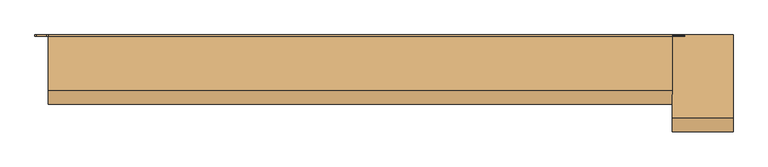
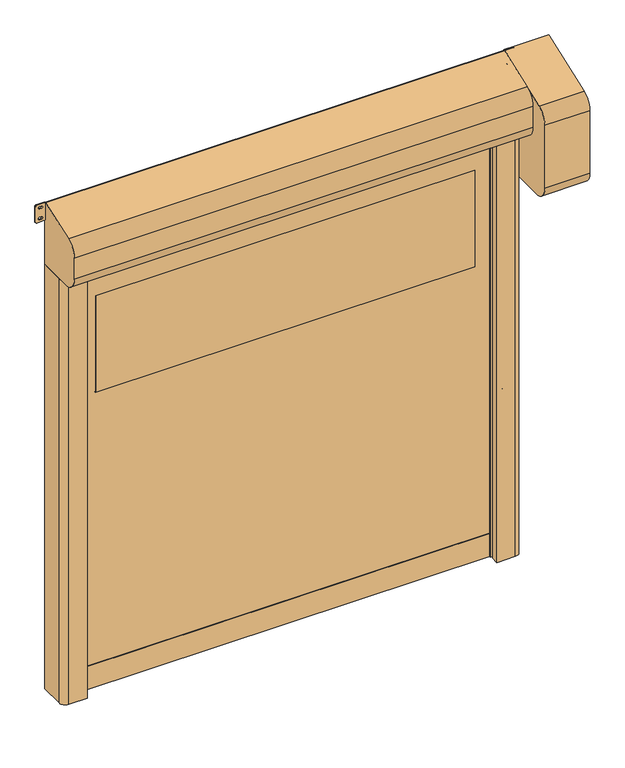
"""IFC4 building model written with IfcOpenShell, lengths in millimetres: door geometry, DO_WPB_Dynadry_BMP : Dynadry."""

import ifcopenshell
import ifcopenshell.guid

model = None  # the IFC model being written
_history = None  # IfcOwnerHistory: only IFC2X3 demands one
_inside = {}  # id of a spatial element -> (the spatial element, [elements in it])
_under = {}  # id of a project, library or spatial element -> (it, [spatial elements below it])
_declared = {}  # id of a project -> (the project, [libraries it declares])
_typed = {}  # id of a type object -> (the type object, [elements of that type])
_made_of = {}  # id of a material, layer set ... -> (it, [elements and type objects made of it])


def new_model(schema):
    """Start an empty IFC model of exactly this schema.

    Asked for "IFC4X3", IfcOpenShell would pick the latest addendum, in which some entities
    have other attributes; the version numbers below select the first issue.
    IFC2X3 requires an IfcOwnerHistory on every rooted entity: one is made here for all.
    """
    global model, _history
    if schema == "IFC4X3":
        model = ifcopenshell.file(schema_version=(4, 3, 0, 0))
    else:
        model = ifcopenshell.file(schema=schema)
    _inside.clear()
    _under.clear()
    _declared.clear()
    _typed.clear()
    _made_of.clear()
    _history = None
    if model.schema == "IFC2X3":
        org = make("IfcOrganization", Name="unknown")
        user = make(
            "IfcPersonAndOrganization",
            ThePerson=make("IfcPerson", FamilyName="unknown"),
            TheOrganization=org,
        )
        app = make(
            "IfcApplication",
            ApplicationDeveloper=org,
            Version="unknown",
            ApplicationFullName="unknown",
            ApplicationIdentifier="unknown",
        )
        _history = make(
            "IfcOwnerHistory",
            OwningUser=user,
            OwningApplication=app,
            ChangeAction="ADDED",
            CreationDate=0,
        )
    return model


def make(cls, **values):
    """One entity of the class cls with the attributes given. An attribute that is None is left unset."""
    return model.create_entity(
        cls, **{name: value for name, value in values.items() if value is not None}
    )


def rooted(cls, **values):
    """An entity with a GlobalId (a new one), such as an element, a storey or a relation."""
    return make(cls, GlobalId=ifcopenshell.guid.new(), OwnerHistory=_history, **values)


def si_unit(unit_type, name, prefix=None):
    """IfcSIUnit, for example si_unit("LENGTHUNIT", "METRE", prefix="MILLI")."""
    return make("IfcSIUnit", UnitType=unit_type, Prefix=prefix, Name=name)


def assignment(units):
    """IfcUnitAssignment: the units of a project."""
    return None if units is None else make("IfcUnitAssignment", Units=units)


def point(xyz):
    """IfcCartesianPoint."""
    return None if xyz is None else make("IfcCartesianPoint", Coordinates=xyz)


def direction(xyz):
    """IfcDirection."""
    return None if xyz is None else make("IfcDirection", DirectionRatios=xyz)


def frame(location, z_axis=None, x_axis=None):
    """IfcAxis2Placement3D, a coordinate frame: its origin and axes. An axis left out is left unset."""
    return make(
        "IfcAxis2Placement3D",
        Location=point(location),
        Axis=direction(z_axis),
        RefDirection=direction(x_axis),
    )


def frame_2d(location, x_axis=None):
    """IfcAxis2Placement2D, a coordinate frame in the plane: its origin and x axis."""
    return make(
        "IfcAxis2Placement2D", Location=point(location), RefDirection=direction(x_axis)
    )


def origin():
    """The frame at (0, 0, 0) with its axes left unset."""
    return frame((0.0, 0.0, 0.0))


def origin_with_axes():
    """The frame at (0, 0, 0) with the z axis (0, 0, 1) and the x axis (1, 0, 0) written out."""
    return frame((0.0, 0.0, 0.0), z_axis=(0.0, 0.0, 1.0), x_axis=(1.0, 0.0, 0.0))


def place(relative_to, where):
    """IfcLocalPlacement: puts the frame where relative to a parent placement (None: the world)."""
    return make(
        "IfcLocalPlacement", PlacementRelTo=relative_to, RelativePlacement=where
    )


def context(
    kind, dimensions, precision=None, world=None, true_north=None, identifier=None
):
    """IfcGeometricRepresentationContext, for example the 3D "Model" context."""
    return make(
        "IfcGeometricRepresentationContext",
        ContextIdentifier=identifier,
        ContextType=kind,
        CoordinateSpaceDimension=dimensions,
        Precision=precision,
        WorldCoordinateSystem=world,
        TrueNorth=true_north,
    )


def project(units=None, contexts=None):
    """IfcProject with its units and contexts."""
    return rooted(
        "IfcProject",
        Name="project",
        RepresentationContexts=contexts,
        UnitsInContext=assignment(units),
    )


def spatial(cls, under=None, at=None, **own):
    """A site, building, storey or space (cls), placed at a placement, below another one or the project."""
    s = rooted(cls, ObjectPlacement=at, **own)
    if under is not None:
        _under.setdefault(under.id(), (under, []))[1].append(s)
    return s


def polyline(points):
    """IfcPolyline through the points."""
    return make("IfcPolyline", Points=[point(p) for p in points])


def circle_curve(where, radius):
    """IfcCircle in the frame where."""
    return make("IfcCircle", Position=where, Radius=radius)


def trimmed(basis, trim1, trim2, sense, master):
    """IfcTrimmedCurve: the piece of a basis curve between two trims."""
    return make(
        "IfcTrimmedCurve",
        BasisCurve=basis,
        Trim1=trim1,
        Trim2=trim2,
        SenseAgreement=sense,
        MasterRepresentation=master,
    )


def segment(curve, same_sense, transition):
    """IfcCompositeCurveSegment."""
    return make(
        "IfcCompositeCurveSegment",
        Transition=transition,
        SameSense=same_sense,
        ParentCurve=curve,
    )


def composite_curve(segments, self_intersect=None):
    """IfcCompositeCurve: segments joined end to end."""
    return make("IfcCompositeCurve", Segments=segments, SelfIntersect=self_intersect)


def outline(outer, holes=None, kind="AREA"):
    """IfcArbitraryClosedProfileDef: a profile drawn as a closed curve; with holes, ...WithVoids."""
    if holes is None:
        return make("IfcArbitraryClosedProfileDef", ProfileType=kind, OuterCurve=outer)
    return make(
        "IfcArbitraryProfileDefWithVoids",
        ProfileType=kind,
        OuterCurve=outer,
        InnerCurves=holes,
    )


def extrude(swept, where, along, depth):
    """IfcExtrudedAreaSolid: the profile swept, set in the frame where, extruded along a direction by depth."""
    return make(
        "IfcExtrudedAreaSolid",
        SweptArea=swept,
        Position=where,
        ExtrudedDirection=direction(along),
        Depth=depth,
    )


def shape(context_of_items, identifier, shape_type, items):
    """IfcShapeRepresentation: the items that make up one representation, for example the "Body"."""
    return make(
        "IfcShapeRepresentation",
        ContextOfItems=context_of_items,
        RepresentationIdentifier=identifier,
        RepresentationType=shape_type,
        Items=items,
    )


def source(mapping_origin, context_of_items, identifier, shape_type, items):
    """IfcRepresentationMap: a shape defined once, which mapped items show again and again."""
    return make(
        "IfcRepresentationMap",
        MappingOrigin=mapping_origin,
        MappedRepresentation=shape(context_of_items, identifier, shape_type, items),
    )


def transform(
    local_origin,
    x_axis=None,
    y_axis=None,
    z_axis=None,
    scale=None,
    scale2=None,
    scale3=None,
    uniform=True,
):
    """IfcCartesianTransformationOperator3D, or its non-uniform kind. x_axis, y_axis, z_axis: its Axis1, 2, 3."""
    if uniform:
        return make(
            "IfcCartesianTransformationOperator3D",
            Axis1=direction(x_axis),
            Axis2=direction(y_axis),
            LocalOrigin=point(local_origin),
            Scale=scale,
            Axis3=direction(z_axis),
        )
    return make(
        "IfcCartesianTransformationOperator3DnonUniform",
        Axis1=direction(x_axis),
        Axis2=direction(y_axis),
        LocalOrigin=point(local_origin),
        Scale=scale,
        Axis3=direction(z_axis),
        Scale2=scale2,
        Scale3=scale3,
    )


def mapped(mapping_source, mapping_target):
    """IfcMappedItem: shows the shape of a source again, moved by a transform."""
    return make(
        "IfcMappedItem", MappingSource=mapping_source, MappingTarget=mapping_target
    )


def made_of(thing, what):
    """Note that an element or type object is made of a material, layer set ...; save() writes the relation."""
    if what is not None:
        _made_of.setdefault(what.id(), (what, []))[1].append(thing)
    return thing


def element(
    cls,
    number,
    at=None,
    inside=None,
    cuts=None,
    type_object=None,
    material=None,
    context=None,
    identifier="Body",
    shape_type=None,
    held_by="IfcProductDefinitionShape",
    body=None,
    shapes=None,
    **own,
):
    """One element of the class cls, such as IfcWall. Its Tag is "e" and its number.

    at: its placement. inside: the storey or other place that contains it. cuts: it is an
    opening in that element (IfcRelVoidsElement). A single representation is given by context,
    identifier, shape_type and body (its items); several are given by shapes. held_by: the class
    of the entity that holds the representations. save() writes the other relations.
    """
    e = rooted(cls, Tag="e%d" % number, ObjectPlacement=at, **own)
    if body is not None:
        shapes = [shape(context, identifier, shape_type, body)]
    if shapes is not None:
        e.Representation = make(held_by, Representations=shapes)
    if inside is not None:
        _inside.setdefault(inside.id(), (inside, []))[1].append(e)
    if cuts is not None:
        rooted(
            "IfcRelVoidsElement", RelatingBuildingElement=cuts, RelatedOpeningElement=e
        )
    if type_object is not None:
        _typed.setdefault(type_object.id(), (type_object, []))[1].append(e)
    return made_of(e, material)


def aggregate(whole, parts):
    """IfcRelAggregates: a whole, such as a stair, and the parts it consists of."""
    return rooted("IfcRelAggregates", RelatingObject=whole, RelatedObjects=parts)


def save(model, path):
    """Write the relations noted so far, then the file.

    IfcRelAggregates (storeys below a building ...), IfcRelContainedInSpatialStructure (elements
    in a storey), IfcRelDefinesByType, IfcRelAssociatesMaterial and IfcRelDeclares: one each for
    every whole, place, type object, material and project.
    """
    for whole, parts in _under.values():
        aggregate(whole, parts)
    for where, things in _inside.values():
        rooted(
            "IfcRelContainedInSpatialStructure",
            RelatedElements=things,
            RelatingStructure=where,
        )
    for kind, things in _typed.values():
        rooted("IfcRelDefinesByType", RelatedObjects=things, RelatingType=kind)
    for what, things in _made_of.values():
        rooted("IfcRelAssociatesMaterial", RelatedObjects=things, RelatingMaterial=what)
    for by, libraries in _declared.values():
        rooted("IfcRelDeclares", RelatingContext=by, RelatedDefinitions=libraries)
    model.write(path)


def door_75ad81ca(model_context):
    return source(origin(), model_context, "Body", "SweptSolid", [
        extrude(outline(composite_curve([segment(trimmed(circle_curve(frame_2d((1416.6666667, 1084.5)), 6.0), [point((1422.6666667, 1084.5))], [point((1410.6666667, 1084.5))], False, "CARTESIAN"), True, "CONTINUOUS"), segment(polyline([(1410.6666667, 1084.5), (1410.6666667, 1102.5)]), True, "CONTINUOUS"), segment(trimmed(circle_curve(frame_2d((1416.6666667, 1102.5)), 6.0), [point((1410.6666667, 1102.5))], [point((1422.6666667, 1102.5))], False, "CARTESIAN"), True, "CONTINUOUS"), segment(polyline([(1422.6666667, 1102.5), (1422.6666667, 1084.5)]), True, "CONTINUOUS")], self_intersect=False)), frame((0.0, -20.0, 0.0), z_axis=(0.0, 1.0, 0.0), x_axis=(0.0, 0.0, 1.0)), (0.0, 0.0, 1.0), 20.0),
        extrude(outline(composite_curve([segment(trimmed(circle_curve(frame_2d((783.3333333, 1084.5)), 6.0), [point((789.3333333, 1084.5))], [point((777.3333333, 1084.5))], False, "CARTESIAN"), True, "CONTINUOUS"), segment(polyline([(777.3333333, 1084.5), (777.3333333, 1102.5)]), True, "CONTINUOUS"), segment(trimmed(circle_curve(frame_2d((783.3333333, 1102.5)), 6.0), [point((777.3333333, 1102.5))], [point((789.3333333, 1102.5))], False, "CARTESIAN"), True, "CONTINUOUS"), segment(polyline([(789.3333333, 1102.5), (789.3333333, 1084.5)]), True, "CONTINUOUS")], self_intersect=False)), frame((0.0, -20.0, 0.0), z_axis=(0.0, 1.0, 0.0), x_axis=(0.0, 0.0, 1.0)), (0.0, 0.0, 1.0), 20.0),
        extrude(outline(composite_curve([segment(trimmed(circle_curve(frame_2d((2050.0, 1084.5)), 6.0), [point((2056.0, 1084.5))], [point((2044.0, 1084.5))], False, "CARTESIAN"), True, "CONTINUOUS"), segment(polyline([(2044.0, 1084.5), (2044.0, 1102.5)]), True, "CONTINUOUS"), segment(trimmed(circle_curve(frame_2d((2050.0, 1102.5)), 6.0), [point((2044.0, 1102.5))], [point((2056.0, 1102.5))], False, "CARTESIAN"), True, "CONTINUOUS"), segment(polyline([(2056.0, 1102.5), (2056.0, 1084.5)]), True, "CONTINUOUS")], self_intersect=False)), frame((0.0, -20.0, 0.0), z_axis=(0.0, 1.0, 0.0), x_axis=(0.0, 0.0, 1.0)), (0.0, 0.0, 1.0), 20.0),
        extrude(outline(composite_curve([segment(trimmed(circle_curve(frame_2d((150.0, 1084.5)), 6.0), [point((156.0, 1084.5))], [point((144.0, 1084.5))], False, "CARTESIAN"), True, "CONTINUOUS"), segment(polyline([(144.0, 1084.5), (144.0, 1102.5)]), True, "CONTINUOUS"), segment(trimmed(circle_curve(frame_2d((150.0, 1102.5)), 6.0), [point((144.0, 1102.5))], [point((156.0, 1102.5))], False, "CARTESIAN"), True, "CONTINUOUS"), segment(polyline([(156.0, 1102.5), (156.0, 1084.5)]), True, "CONTINUOUS")], self_intersect=False)), frame((0.0, -20.0, 0.0), z_axis=(0.0, 1.0, 0.0), x_axis=(0.0, 0.0, 1.0)), (0.0, 0.0, 1.0), 20.0),
        extrude(outline(composite_curve([segment(polyline([(1422.6666667, -1084.5), (1422.6666667, -1102.5)]), True, "CONTINUOUS"), segment(trimmed(circle_curve(frame_2d((1416.6666667, -1102.5)), 6.0), [point((1422.6666667, -1102.5))], [point((1410.6666667, -1102.5))], False, "CARTESIAN"), True, "CONTINUOUS"), segment(polyline([(1410.6666667, -1102.5), (1410.6666667, -1084.5)]), True, "CONTINUOUS"), segment(trimmed(circle_curve(frame_2d((1416.6666667, -1084.5)), 6.0), [point((1410.6666667, -1084.5))], [point((1422.6666667, -1084.5))], False, "CARTESIAN"), True, "CONTINUOUS")], self_intersect=False)), frame((0.0, -20.0, 0.0), z_axis=(0.0, 1.0, 0.0), x_axis=(0.0, 0.0, 1.0)), (0.0, 0.0, 1.0), 20.0),
        extrude(outline(composite_curve([segment(polyline([(789.3333333, -1084.5), (789.3333333, -1102.5)]), True, "CONTINUOUS"), segment(trimmed(circle_curve(frame_2d((783.3333333, -1102.5)), 6.0), [point((789.3333333, -1102.5))], [point((777.3333333, -1102.5))], False, "CARTESIAN"), True, "CONTINUOUS"), segment(polyline([(777.3333333, -1102.5), (777.3333333, -1084.5)]), True, "CONTINUOUS"), segment(trimmed(circle_curve(frame_2d((783.3333333, -1084.5)), 6.0), [point((777.3333333, -1084.5))], [point((789.3333333, -1084.5))], False, "CARTESIAN"), True, "CONTINUOUS")], self_intersect=False)), frame((0.0, -20.0, 0.0), z_axis=(0.0, 1.0, 0.0), x_axis=(0.0, 0.0, 1.0)), (0.0, 0.0, 1.0), 20.0),
        extrude(outline(composite_curve([segment(polyline([(2056.0, -1084.5), (2056.0, -1102.5)]), True, "CONTINUOUS"), segment(trimmed(circle_curve(frame_2d((2050.0, -1102.5)), 6.0), [point((2056.0, -1102.5))], [point((2044.0, -1102.5))], False, "CARTESIAN"), True, "CONTINUOUS"), segment(polyline([(2044.0, -1102.5), (2044.0, -1084.5)]), True, "CONTINUOUS"), segment(trimmed(circle_curve(frame_2d((2050.0, -1084.5)), 6.0), [point((2044.0, -1084.5))], [point((2056.0, -1084.5))], False, "CARTESIAN"), True, "CONTINUOUS")], self_intersect=False)), frame((0.0, -20.0, 0.0), z_axis=(0.0, 1.0, 0.0), x_axis=(0.0, 0.0, 1.0)), (0.0, 0.0, 1.0), 20.0),
        extrude(outline(composite_curve([segment(polyline([(156.0, -1084.5), (156.0, -1102.5)]), True, "CONTINUOUS"), segment(trimmed(circle_curve(frame_2d((150.0, -1102.5)), 6.0), [point((156.0, -1102.5))], [point((144.0, -1102.5))], False, "CARTESIAN"), True, "CONTINUOUS"), segment(polyline([(144.0, -1102.5), (144.0, -1084.5)]), True, "CONTINUOUS"), segment(trimmed(circle_curve(frame_2d((150.0, -1084.5)), 6.0), [point((144.0, -1084.5))], [point((156.0, -1084.5))], False, "CARTESIAN"), True, "CONTINUOUS")], self_intersect=False)), frame((0.0, -20.0, 0.0), z_axis=(0.0, 1.0, 0.0), x_axis=(0.0, 0.0, 1.0)), (0.0, 0.0, 1.0), 20.0),
        extrude(outline(composite_curve([segment(trimmed(circle_curve(frame_2d((1526.0, 929.0)), 1.0), [point((1525.0, 929.0))], [point((1526.0, 930.0))], False, "CARTESIAN"), True, "CONTINUOUS"), segment(polyline([(1526.0, 930.0), (2024.0, 930.0)]), True, "CONTINUOUS"), segment(trimmed(circle_curve(frame_2d((2024.0, 929.0)), 1.0), [point((2024.0, 930.0))], [point((2025.0, 929.0))], False, "CARTESIAN"), True, "CONTINUOUS"), segment(polyline([(2025.0, 929.0), (2025.0, -929.0)]), True, "CONTINUOUS"), segment(trimmed(circle_curve(frame_2d((2024.0, -929.0)), 1.0), [point((2025.0, -929.0))], [point((2024.0, -930.0))], False, "CARTESIAN"), True, "CONTINUOUS"), segment(polyline([(2024.0, -930.0), (1526.0, -930.0)]), True, "CONTINUOUS"), segment(trimmed(circle_curve(frame_2d((1526.0, -929.0)), 1.0), [point((1526.0, -930.0))], [point((1525.0, -929.0))], False, "CARTESIAN"), True, "CONTINUOUS"), segment(polyline([(1525.0, -929.0), (1525.0, 929.0)]), True, "CONTINUOUS")], self_intersect=False)), frame((0.0, -93.5, 0.0), z_axis=(0.0, 1.0, 0.0), x_axis=(0.0, 0.0, 1.0)), (0.0, 0.0, 1.0), 7.0),
        extrude(outline(polyline([(120.0, -1012.0), (120.0, 1012.0), (2362.5, 1012.0), (2362.5, -1012.0), (120.0, -1012.0)]), holes=[composite_curve([segment(trimmed(circle_curve(frame_2d((1526.0, 929.0)), 1.0), [point((1526.0, 930.0))], [point((1525.0, 929.0))], True, "CARTESIAN"), True, "CONTINUOUS"), segment(polyline([(1525.0, 929.0), (1525.0, -929.0)]), True, "CONTINUOUS"), segment(trimmed(circle_curve(frame_2d((1526.0, -929.0)), 1.0), [point((1525.0, -929.0))], [point((1526.0, -930.0))], True, "CARTESIAN"), True, "CONTINUOUS"), segment(polyline([(1526.0, -930.0), (2024.0, -930.0)]), True, "CONTINUOUS"), segment(trimmed(circle_curve(frame_2d((2024.0, -929.0)), 1.0), [point((2024.0, -930.0))], [point((2025.0, -929.0))], True, "CARTESIAN"), True, "CONTINUOUS"), segment(polyline([(2025.0, -929.0), (2025.0, 929.0)]), True, "CONTINUOUS"), segment(trimmed(circle_curve(frame_2d((2024.0, 929.0)), 1.0), [point((2025.0, 929.0))], [point((2024.0, 930.0))], True, "CARTESIAN"), True, "CONTINUOUS"), segment(polyline([(2024.0, 930.0), (1526.0, 930.0)]), True, "CONTINUOUS")], self_intersect=False)]), frame((0.0, -93.5, 0.0), z_axis=(0.0, 1.0, 0.0), x_axis=(0.0, 0.0, 1.0)), (0.0, 0.0, 1.0), 7.0),
        extrude(outline(polyline([(-1012.0, -84.5), (1012.0, -84.5), (1012.0, -95.5), (-1012.0, -95.5), (-1012.0, -84.5)])), origin_with_axes(), (0.0, 0.0, 1.0), 120.0),
        extrude(outline(composite_curve([segment(polyline([(-1125.0, 0.0), (-1015.0, 0.0), (-1015.0, -74.2857143), (-1035.0, -80.0), (-1000.0, -80.0), (-1000.0, -86.5), (-1020.0, -86.5), (-1020.0, -93.5), (-1000.0, -93.5), (-1000.0, -100.0), (-1035.0, -100.0), (-1035.0, -115.0), (-1005.0, -115.0), (-1005.0, -150.0), (-1095.0, -150.0)]), True, "CONTINUOUS"), segment(trimmed(circle_curve(frame_2d((-1095.0, -120.0)), 30.0), [point((-1095.0, -150.0))], [point((-1125.0, -120.0))], False, "CARTESIAN"), True, "CONTINUOUS"), segment(polyline([(-1125.0, -120.0), (-1125.0, 0.0)]), True, "CONTINUOUS")], self_intersect=False)), origin_with_axes(), (0.0, 0.0, 1.0), 2200.0),
        extrude(outline(composite_curve([segment(polyline([(1125.0, 0.0), (1125.0, -120.0)]), True, "CONTINUOUS"), segment(trimmed(circle_curve(frame_2d((1095.0, -120.0)), 30.0), [point((1125.0, -120.0))], [point((1095.0, -150.0))], False, "CARTESIAN"), True, "CONTINUOUS"), segment(polyline([(1095.0, -150.0), (1005.0, -150.0), (1005.0, -115.0), (1035.0, -115.0), (1035.0, -100.0), (1000.0, -100.0), (1000.0, -93.5), (1020.0, -93.5), (1020.0, -86.5), (1000.0, -86.5), (1000.0, -80.0), (1035.0, -80.0), (1015.0, -74.2857143), (1015.0, 0.0), (1125.0, 0.0)]), True, "CONTINUOUS")], self_intersect=False)), origin_with_axes(), (0.0, 0.0, 1.0), 2200.0),
        extrude(outline(composite_curve([segment(polyline([(0.0, 2525.0), (0.0, 1945.0), (-275.0, 1945.0)]), True, "CONTINUOUS"), segment(trimmed(circle_curve(frame_2d((-275.0, 2020.0)), 75.0), [point((-275.0, 1945.0))], [point((-350.0, 2020.0))], False, "CARTESIAN"), True, "CONTINUOUS"), segment(polyline([(-350.0, 2020.0), (-350.0, 2345.0948526)]), True, "CONTINUOUS"), segment(trimmed(circle_curve(frame_2d((-275.0, 2345.0948526)), 75.0), [point((-350.0, 2345.0948526))], [point((-300.6515107, 2415.5717992))], False, "CARTESIAN"), True, "CONTINUOUS"), segment(polyline([(-300.6515107, 2415.5717992), (0.0, 2525.0)]), True, "CONTINUOUS")], self_intersect=False)), frame((1125.0, 0.0, 0.0), z_axis=(1.0, 0.0, 0.0), x_axis=(0.0, 1.0, 0.0)), (0.0, 0.0, 1.0), 220.0),
        extrude(outline(composite_curve([segment(trimmed(circle_curve(frame_2d((-5.0, 2205.0)), 5.0), [point((0.0, 2205.0))], [point((-5.0, 2200.0))], False, "CARTESIAN"), True, "CONTINUOUS"), segment(polyline([(-5.0, 2200.0), (-175.0, 2200.0)]), True, "CONTINUOUS"), segment(trimmed(circle_curve(frame_2d((-175.0, 2275.0)), 75.0), [point((-175.0, 2200.0))], [point((-250.0, 2275.0))], False, "CARTESIAN"), True, "CONTINUOUS"), segment(polyline([(-250.0, 2275.0), (-250.0, 2383.934153)]), True, "CONTINUOUS"), segment(trimmed(circle_curve(frame_2d((-175.0, 2383.934153)), 75.0), [point((-250.0, 2383.934153))], [point((-200.6515107, 2454.4110996))], False, "CARTESIAN"), True, "CONTINUOUS"), segment(polyline([(-200.6515107, 2454.4110996), (-6.7101007, 2525.0)]), True, "CONTINUOUS"), segment(trimmed(circle_curve(frame_2d((-5.0, 2520.3015369)), 5.0), [point((-6.7101007, 2525.0))], [point((0.0, 2520.3015369))], False, "CARTESIAN"), True, "CONTINUOUS"), segment(polyline([(0.0, 2520.3015369), (0.0, 2205.0)]), True, "CONTINUOUS")], self_intersect=False)), frame((-1125.0, 0.0, 0.0), z_axis=(1.0, 0.0, 0.0), x_axis=(0.0, 1.0, 0.0)), (0.0, 0.0, 1.0), 2250.0),
        extrude(outline(composite_curve([segment(trimmed(circle_curve(frame_2d((2438.75, 1130.75)), 5.75), [point((2438.75, 1125.0))], [point((2433.0, 1130.75))], False, "CARTESIAN"), True, "CONTINUOUS"), segment(polyline([(2433.0, 1130.75), (2433.0, 1168.25)]), True, "CONTINUOUS"), segment(trimmed(circle_curve(frame_2d((2438.75, 1168.25)), 5.75), [point((2433.0, 1168.25))], [point((2438.75, 1174.0))], False, "CARTESIAN"), True, "CONTINUOUS"), segment(polyline([(2438.75, 1174.0), (2519.25, 1174.0)]), True, "CONTINUOUS"), segment(trimmed(circle_curve(frame_2d((2519.25, 1168.25)), 5.75), [point((2519.25, 1174.0))], [point((2525.0, 1168.25))], False, "CARTESIAN"), True, "CONTINUOUS"), segment(polyline([(2525.0, 1168.25), (2525.0, 1130.75)]), True, "CONTINUOUS"), segment(trimmed(circle_curve(frame_2d((2519.25, 1130.75)), 5.75), [point((2525.0, 1130.75))], [point((2519.25, 1125.0))], False, "CARTESIAN"), True, "CONTINUOUS"), segment(polyline([(2519.25, 1125.0), (2438.75, 1125.0)]), True, "CONTINUOUS")], self_intersect=False), holes=[composite_curve([segment(trimmed(circle_curve(frame_2d((2451.5, 1153.75)), 5.75), [point((2457.25, 1153.75))], [point((2445.75, 1153.75))], True, "CARTESIAN"), True, "CONTINUOUS"), segment(polyline([(2445.75, 1153.75), (2445.75, 1145.25)]), True, "CONTINUOUS"), segment(trimmed(circle_curve(frame_2d((2451.5, 1145.25)), 5.75), [point((2445.75, 1145.25))], [point((2457.25, 1145.25))], True, "CARTESIAN"), True, "CONTINUOUS"), segment(polyline([(2457.25, 1145.25), (2457.25, 1153.75)]), True, "CONTINUOUS")], self_intersect=False), composite_curve([segment(trimmed(circle_curve(frame_2d((2506.5, 1153.75)), 5.75), [point((2512.25, 1153.75))], [point((2500.75, 1153.75))], True, "CARTESIAN"), True, "CONTINUOUS"), segment(polyline([(2500.75, 1153.75), (2500.75, 1145.25)]), True, "CONTINUOUS"), segment(trimmed(circle_curve(frame_2d((2506.5, 1145.25)), 5.75), [point((2500.75, 1145.25))], [point((2512.25, 1145.25))], True, "CARTESIAN"), True, "CONTINUOUS"), segment(polyline([(2512.25, 1145.25), (2512.25, 1153.75)]), True, "CONTINUOUS")], self_intersect=False)]), frame((0.0, -5.0, 0.0), z_axis=(0.0, 1.0, 0.0), x_axis=(0.0, 0.0, 1.0)), (0.0, 0.0, 1.0), 5.0),
        extrude(outline(composite_curve([segment(trimmed(circle_curve(frame_2d((2438.75, -1168.25)), 5.75), [point((2438.75, -1174.0))], [point((2433.0, -1168.25))], False, "CARTESIAN"), True, "CONTINUOUS"), segment(polyline([(2433.0, -1168.25), (2433.0, -1130.75)]), True, "CONTINUOUS"), segment(trimmed(circle_curve(frame_2d((2438.75, -1130.75)), 5.75), [point((2433.0, -1130.75))], [point((2438.75, -1125.0))], False, "CARTESIAN"), True, "CONTINUOUS"), segment(polyline([(2438.75, -1125.0), (2519.25, -1125.0)]), True, "CONTINUOUS"), segment(trimmed(circle_curve(frame_2d((2519.25, -1130.75)), 5.75), [point((2519.25, -1125.0))], [point((2525.0, -1130.75))], False, "CARTESIAN"), True, "CONTINUOUS"), segment(polyline([(2525.0, -1130.75), (2525.0, -1168.25)]), True, "CONTINUOUS"), segment(trimmed(circle_curve(frame_2d((2519.25, -1168.25)), 5.75), [point((2525.0, -1168.25))], [point((2519.25, -1174.0))], False, "CARTESIAN"), True, "CONTINUOUS"), segment(polyline([(2519.25, -1174.0), (2438.75, -1174.0)]), True, "CONTINUOUS")], self_intersect=False), holes=[composite_curve([segment(trimmed(circle_curve(frame_2d((2451.5, -1145.25)), 5.75), [point((2457.25, -1145.25))], [point((2445.75, -1145.25))], True, "CARTESIAN"), True, "CONTINUOUS"), segment(polyline([(2445.75, -1145.25), (2445.75, -1153.75)]), True, "CONTINUOUS"), segment(trimmed(circle_curve(frame_2d((2451.5, -1153.75)), 5.75), [point((2445.75, -1153.75))], [point((2457.25, -1153.75))], True, "CARTESIAN"), True, "CONTINUOUS"), segment(polyline([(2457.25, -1153.75), (2457.25, -1145.25)]), True, "CONTINUOUS")], self_intersect=False), composite_curve([segment(trimmed(circle_curve(frame_2d((2506.5, -1145.25)), 5.75), [point((2512.25, -1145.25))], [point((2500.75, -1145.25))], True, "CARTESIAN"), True, "CONTINUOUS"), segment(polyline([(2500.75, -1145.25), (2500.75, -1153.75)]), True, "CONTINUOUS"), segment(trimmed(circle_curve(frame_2d((2506.5, -1153.75)), 5.75), [point((2500.75, -1153.75))], [point((2512.25, -1153.75))], True, "CARTESIAN"), True, "CONTINUOUS"), segment(polyline([(2512.25, -1153.75), (2512.25, -1145.25)]), True, "CONTINUOUS")], self_intersect=False)]), frame((0.0, -5.0, 0.0), z_axis=(0.0, 1.0, 0.0), x_axis=(0.0, 0.0, 1.0)), (0.0, 0.0, 1.0), 5.0),
    ])


if __name__ == "__main__":
    model = new_model("IFC4")
    model_context = context("Model", 3, world=origin())
    ifc_project = project(units=[si_unit("LENGTHUNIT", "METRE", prefix="MILLI")], contexts=[model_context])
    site = spatial("IfcSite", under=ifc_project)
    building = spatial("IfcBuilding", under=site)
    placement = place(None, origin())
    door_shape = door_75ad81ca(model_context)
    element("IfcDoor", 1, ObjectType="DO_WPB_Dynadry_BMP : Dynadry", at=placement, inside=building, context=model_context, shape_type="MappedRepresentation", body=[
        mapped(door_shape, transform((0.0, 0.0, 0.0), x_axis=(1.0, 0.0, 0.0), y_axis=(0.0, 1.0, 0.0), z_axis=(0.0, 0.0, 1.0))),
    ])
    save(model, "model.ifc")
